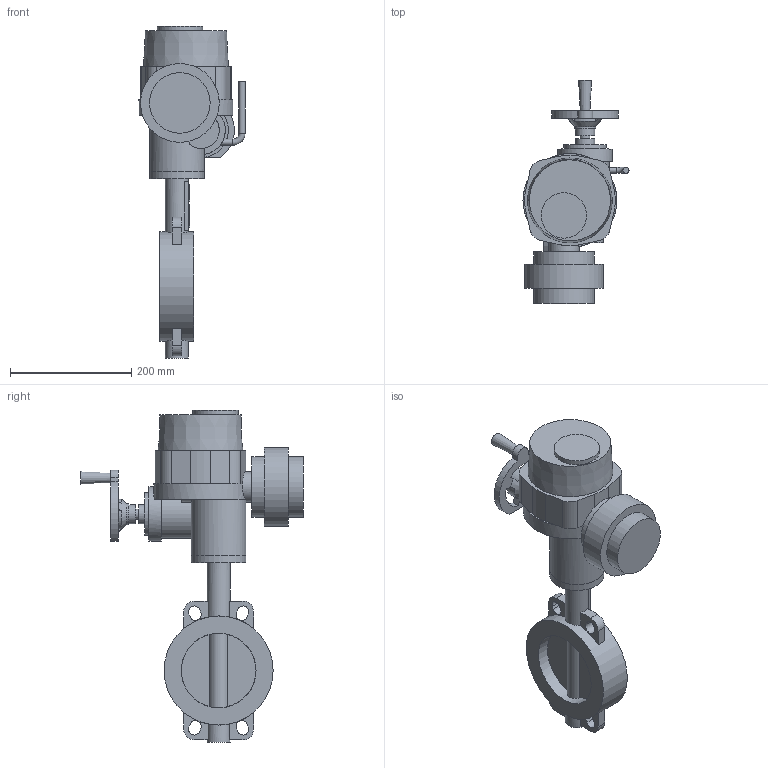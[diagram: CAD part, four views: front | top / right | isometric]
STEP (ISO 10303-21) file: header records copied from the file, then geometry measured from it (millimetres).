
FILE_DESCRIPTION(('STEP AP203'), '1');
FILE_NAME('青蜮铕 017W.ZS DN125+菹 QT.A010', '', ('UNSPECIFIED'), ('UNSPECIFIED'), 'ASCON STEP Converter 1.6', 'ASCON Math Kernel', '');
FILE_SCHEMA(('CONFIG_CONTROL_DESIGN'));
Length unit declared in the file: millimetre
Bounding box: 175 x 368 x 548 mm (x, y, z)
Volume: 4557894.7 mm3; surface area: 391547 mm2
Topology: 1 solids, 4 shells, 743 faces, 2141 edges, 1379 vertices
Faces by surface type: cylinder 503, plane 236, cone 3, torus 1
Full cylindrical faces by diameter (mm): 6.7 x4, 10 x6, 16 x1, 18.9 x1, 20 x1, 32 x2, 35 x1, 38 x2, 50 x1, 55 x1, 70 x1, 75 x1, 90 x3, 100 x2, 123.3 x2, 130 x1, 180 x1
Entity records: 31653 total; most frequent: CARTESIAN_POINT 5289, DIRECTION 4652, ORIENTED_EDGE 4151, EDGE_CURVE 2107, AXIS2_PLACEMENT_3D 1828, VERTEX_POINT 1379, CIRCLE 1085, LINE 996
